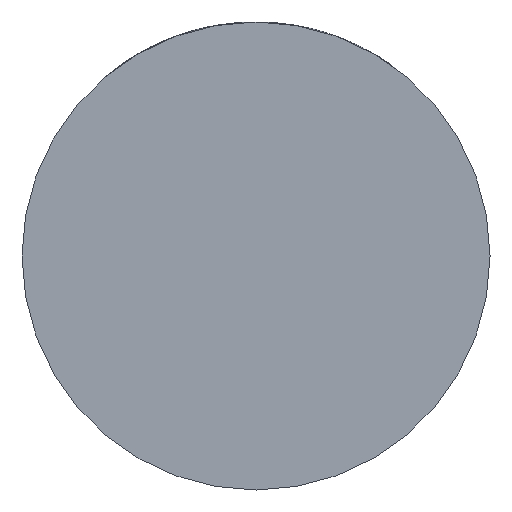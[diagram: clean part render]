
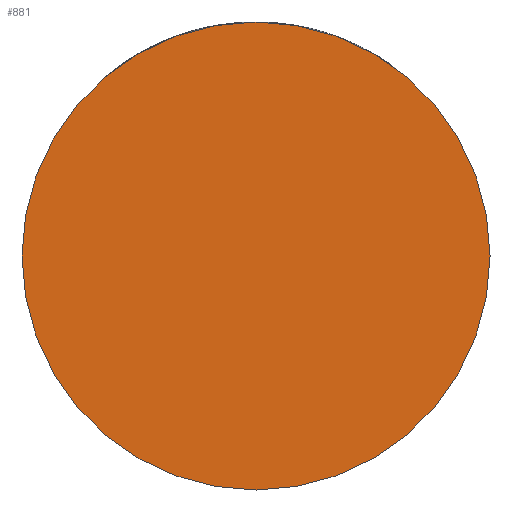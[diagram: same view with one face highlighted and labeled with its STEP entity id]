
A CAD part, front view. The second image highlights one B-rep face of the part: STEP entity #881.
In plain terms, the highlighted planar face has unit normal (0, -1, 0).
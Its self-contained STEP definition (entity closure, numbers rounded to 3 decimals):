
#11 = ORIENTED_EDGE ( 'NONE', *, *, #1089, .T. ) ;
#405 = VERTEX_POINT ( 'NONE', #4226 ) ;
#881 = ADVANCED_FACE ( 'NONE', ( #1014 ), #3603, .T. ) ;
#1014 = FACE_OUTER_BOUND ( 'NONE', #1326, .T. ) ;
#1089 = EDGE_CURVE ( 'NONE', #405, #1587, #1553, .T. ) ;
#1118 = CARTESIAN_POINT ( 'NONE',  ( -39., -36., 0. ) ) ;
#1326 = EDGE_LOOP ( 'NONE', ( #1779, #11 ) ) ;
#1432 = CIRCLE ( 'NONE', #3416, 39. ) ;
#1480 = CARTESIAN_POINT ( 'NONE',  ( 0., -36., 0. ) ) ;
#1553 = CIRCLE ( 'NONE', #4138, 39. ) ;
#1587 = VERTEX_POINT ( 'NONE', #1118 ) ;
#1779 = ORIENTED_EDGE ( 'NONE', *, *, #2139, .T. ) ;
#1847 = DIRECTION ( 'NONE',  ( 1., 0., 0. ) ) ;
#1958 = DIRECTION ( 'NONE',  ( 1., 0., 0. ) ) ;
#2044 = DIRECTION ( 'NONE',  ( 0., -1., 0. ) ) ;
#2139 = EDGE_CURVE ( 'NONE', #1587, #405, #1432, .T. ) ;
#2191 = AXIS2_PLACEMENT_3D ( 'NONE', #1480, #2044, #1847 ) ;
#2232 = DIRECTION ( 'NONE',  ( 0., -1., 0. ) ) ;
#2502 = DIRECTION ( 'NONE',  ( 1., 0., 0. ) ) ;
#2652 = CARTESIAN_POINT ( 'NONE',  ( 0., -36., 0. ) ) ;
#3192 = CARTESIAN_POINT ( 'NONE',  ( 0., -36., 0. ) ) ;
#3416 = AXIS2_PLACEMENT_3D ( 'NONE', #3192, #4260, #2502 ) ;
#3603 = PLANE ( 'NONE',  #2191 ) ;
#4138 = AXIS2_PLACEMENT_3D ( 'NONE', #2652, #2232, #1958 ) ;
#4226 = CARTESIAN_POINT ( 'NONE',  ( 39., -36., 0. ) ) ;
#4260 = DIRECTION ( 'NONE',  ( 0., -1., 0. ) ) ;
